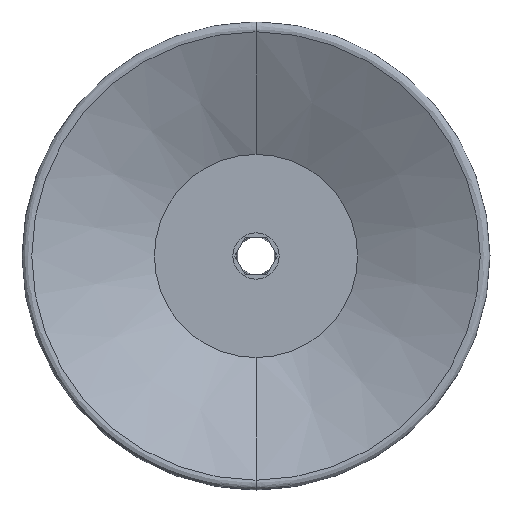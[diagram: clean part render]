
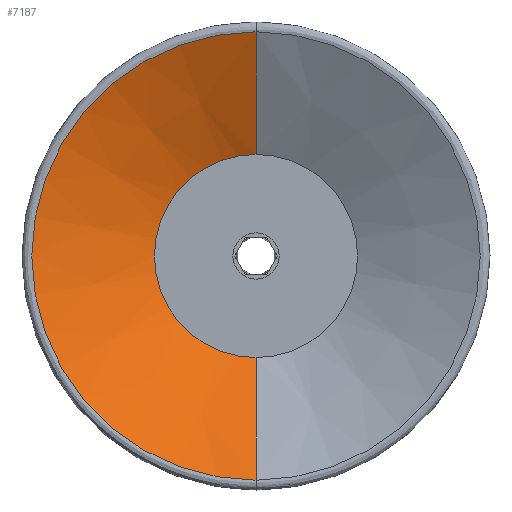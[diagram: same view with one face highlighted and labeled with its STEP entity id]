
A CAD part, front view. The second image highlights one B-rep face of the part: STEP entity #7187.
In plain terms, the highlighted conical face has half-angle 63.597 degrees and reference radius 36.411 mm.
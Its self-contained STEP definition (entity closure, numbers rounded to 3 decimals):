
#685 = DIRECTION ( 'NONE',  ( 0., -0.445, -0.896 ) ) ;
#961 = CARTESIAN_POINT ( 'NONE',  ( 0., -13., 0. ) ) ;
#965 = DIRECTION ( 'NONE',  ( 0., 0., 1. ) ) ;
#1608 = CARTESIAN_POINT ( 'NONE',  ( 0., -22.885, 36.411 ) ) ;
#1889 = CARTESIAN_POINT ( 'NONE',  ( 0., -22.885, -36.411 ) ) ;
#1907 = CARTESIAN_POINT ( 'NONE',  ( 0., -13., 16.5 ) ) ;
#1911 = AXIS2_PLACEMENT_3D ( 'NONE', #961, #3148, #3077 ) ;
#2043 = ORIENTED_EDGE ( 'NONE', *, *, #10006, .T. ) ;
#3077 = DIRECTION ( 'NONE',  ( 0., 0., -1. ) ) ;
#3148 = DIRECTION ( 'NONE',  ( 0., -1., 0. ) ) ;
#3424 = VERTEX_POINT ( 'NONE', #1608 ) ;
#4070 = CARTESIAN_POINT ( 'NONE',  ( 0., -13., -16.5 ) ) ;
#4973 = LINE ( 'NONE', #1889, #15553 ) ;
#6232 = AXIS2_PLACEMENT_3D ( 'NONE', #6332, #11504, #10225 ) ;
#6332 = CARTESIAN_POINT ( 'NONE',  ( 0., -22.885, 0. ) ) ;
#6339 = VECTOR ( 'NONE', #15061, 1000. ) ;
#6417 = LINE ( 'NONE', #7697, #6339 ) ;
#6743 = AXIS2_PLACEMENT_3D ( 'NONE', #14530, #7014, #965 ) ;
#6828 = EDGE_CURVE ( 'NONE', #10513, #3424, #11801, .T. ) ;
#7014 = DIRECTION ( 'NONE',  ( 0., 1., 0. ) ) ;
#7187 = ADVANCED_FACE ( 'NONE', ( #12375 ), #7241, .F. ) ;
#7241 = CONICAL_SURFACE ( 'NONE', #6232, 36.411, 1.11 ) ;
#7697 = CARTESIAN_POINT ( 'NONE',  ( 0., -22.885, 36.411 ) ) ;
#8710 = VERTEX_POINT ( 'NONE', #4070 ) ;
#9722 = ORIENTED_EDGE ( 'NONE', *, *, #6828, .F. ) ;
#10006 = EDGE_CURVE ( 'NONE', #14616, #3424, #6417, .T. ) ;
#10225 = DIRECTION ( 'NONE',  ( 0., 0., -1. ) ) ;
#10501 = ORIENTED_EDGE ( 'NONE', *, *, #15349, .F. ) ;
#10513 = VERTEX_POINT ( 'NONE', #12730 ) ;
#11079 = ORIENTED_EDGE ( 'NONE', *, *, #15170, .F. ) ;
#11504 = DIRECTION ( 'NONE',  ( 0., -1., 0. ) ) ;
#11801 = CIRCLE ( 'NONE', #6743, 36.411 ) ;
#12272 = EDGE_LOOP ( 'NONE', ( #10501, #2043, #9722, #11079 ) ) ;
#12375 = FACE_OUTER_BOUND ( 'NONE', #12272, .T. ) ;
#12730 = CARTESIAN_POINT ( 'NONE',  ( 0., -22.885, -36.411 ) ) ;
#12838 = CIRCLE ( 'NONE', #1911, 16.5 ) ;
#14530 = CARTESIAN_POINT ( 'NONE',  ( 0., -22.885, 0. ) ) ;
#14616 = VERTEX_POINT ( 'NONE', #1907 ) ;
#15061 = DIRECTION ( 'NONE',  ( 0., -0.445, 0.896 ) ) ;
#15170 = EDGE_CURVE ( 'NONE', #8710, #10513, #4973, .T. ) ;
#15349 = EDGE_CURVE ( 'NONE', #14616, #8710, #12838, .T. ) ;
#15553 = VECTOR ( 'NONE', #685, 1000. ) ;
